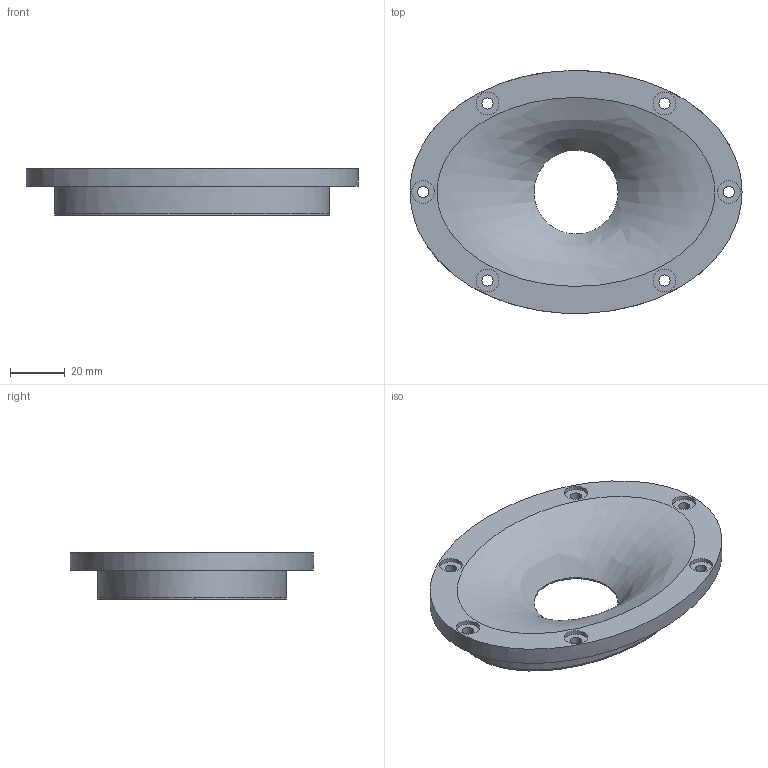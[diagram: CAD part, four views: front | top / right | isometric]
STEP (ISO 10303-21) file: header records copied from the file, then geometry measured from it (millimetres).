
FILE_DESCRIPTION(/* description */ (''),/* implementation_level */ '2;1');
FILE_NAME(/* name */ '4x.65 A 68 T25 v2.step',/* time_stamp */ '2023-12-27T21:05:58-07:00',/* author */ (''),/* organization */ (''),/* preprocessor_version */ 'ST-DEVELOPER v20',/* originating_system */ 'Autodesk Translation Framework v12.14.0.127',/* authorisation */ '');
FILE_SCHEMA (('AUTOMOTIVE_DESIGN { 1 0 10303 214 3 1 1 }'));
Length unit declared in the file: inch
Products named in the file (1): 4x.65 A 68 T25
Bounding box: 121.41 x 88.9 x 17.02 mm (x, y, z)
Volume: 76845.6 mm3; surface area: 22159.5 mm2
Topology: 1 solids, 1 shells, 240 faces, 631 edges, 419 vertices
Faces by surface type: bspline 130, plane 94, cylinder 16
Full cylindrical faces by diameter (mm): 3.302 x3, 4.064 x6, 8.382 x6
Entity records: 11394 total; most frequent: CARTESIAN_POINT 6265, ORIENTED_EDGE 1262, EDGE_CURVE 631, DIRECTION 625, VERTEX_POINT 419, LINE 339, VECTOR 339, EDGE_LOOP 280
